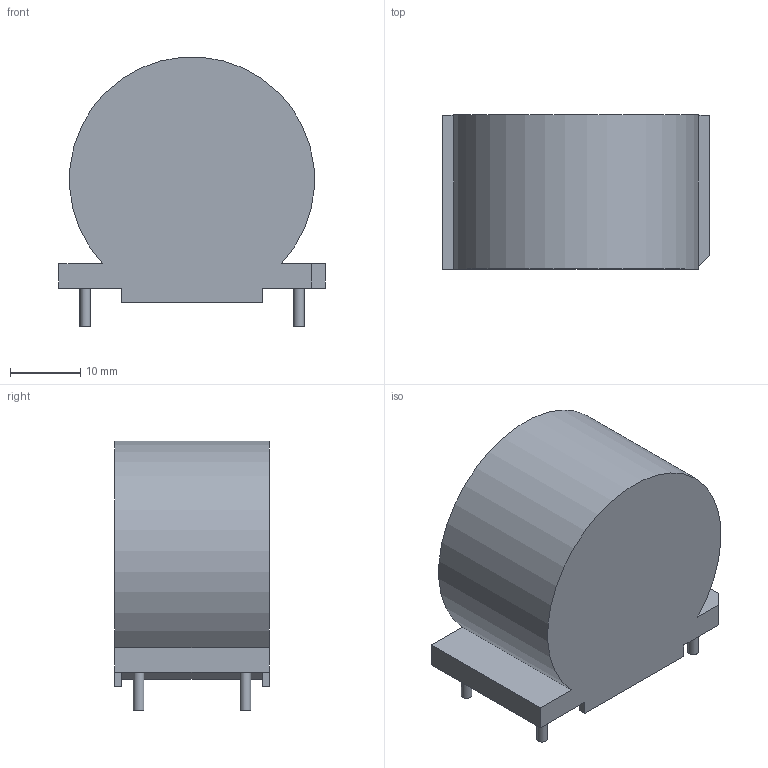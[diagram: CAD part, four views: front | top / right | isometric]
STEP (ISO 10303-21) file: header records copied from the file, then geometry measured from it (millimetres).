
FILE_DESCRIPTION(/* description */ (''),/* implementation_level */ '2;1');
FILE_NAME(/* name */ 'F:\Done\2016\产品3D模拟 新型号\修改针径\6126-X212\6126-X212 3D Model.stp',/* time_stamp */ '2016-07-11T10:51:32+08:00',/* author */ ('CN000562'),/* organization */ (''),/* preprocessor_version */ 'ST-DEVELOPER v16.5',/* originating_system */ 'Autodesk Inventor 2017',/* authorisation */ '');
FILE_SCHEMA (('AUTOMOTIVE_DESIGN { 1 0 10303 214 3 1 1 }'));
Length unit declared in the file: millimetre
Products named in the file (1): 6126-X216 3D Model
Bounding box: 38 x 22 x 38.44 mm (x, y, z)
Volume: 22374.6 mm3; surface area: 5303.6 mm2
Topology: 1 solids, 1 shells, 29 faces, 69 edges, 46 vertices
Faces by surface type: plane 24, cylinder 5
Full cylindrical faces by diameter (mm): 1.5 x4
Entity records: 843 total; most frequent: CARTESIAN_POINT 141, DIRECTION 135, ORIENTED_EDGE 130, EDGE_CURVE 65, LINE 55, VECTOR 55, VERTEX_POINT 46, AXIS2_PLACEMENT_3D 40
